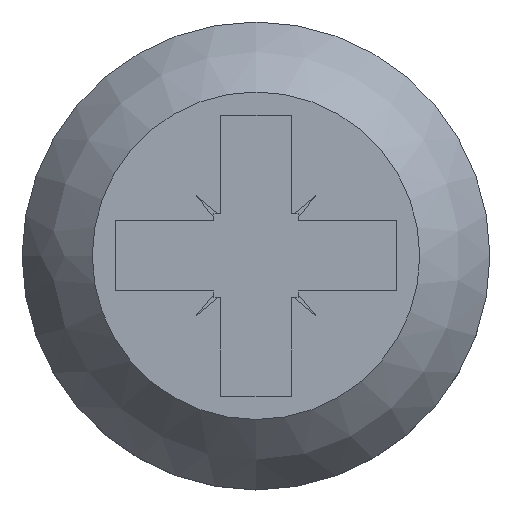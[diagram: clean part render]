
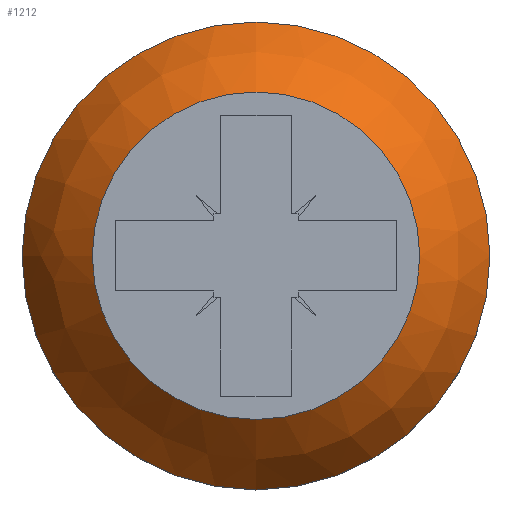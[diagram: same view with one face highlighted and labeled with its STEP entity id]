
A CAD part, top view. The second image highlights one B-rep face of the part: STEP entity #1212.
In plain terms, the highlighted spherical face has radius 3.865 mm.
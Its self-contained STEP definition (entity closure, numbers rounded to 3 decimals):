
#16=SPHERICAL_SURFACE('',#1293,3.865);
#116=FACE_OUTER_BOUND('',#178,.T.);
#178=EDGE_LOOP('',(#1114,#1115,#1116,#1117,#1118));
#189=CIRCLE('',#1292,2.45);
#190=CIRCLE('',#1294,3.865);
#191=CIRCLE('',#1295,3.5);
#192=CIRCLE('',#1296,3.5);
#594=VERTEX_POINT('',#11692);
#595=VERTEX_POINT('',#11695);
#596=VERTEX_POINT('',#11697);
#770=EDGE_CURVE('',#594,#594,#189,.T.);
#771=EDGE_CURVE('',#594,#595,#190,.T.);
#772=EDGE_CURVE('',#596,#595,#191,.T.);
#773=EDGE_CURVE('',#595,#596,#192,.T.);
#1114=ORIENTED_EDGE('',*,*,#770,.T.);
#1115=ORIENTED_EDGE('',*,*,#771,.T.);
#1116=ORIENTED_EDGE('',*,*,#772,.F.);
#1117=ORIENTED_EDGE('',*,*,#773,.F.);
#1118=ORIENTED_EDGE('',*,*,#771,.F.);
#1212=ADVANCED_FACE('',(#116),#16,.T.);
#1292=AXIS2_PLACEMENT_3D('',#11693,#1541,#1542);
#1293=AXIS2_PLACEMENT_3D('',#11694,#1543,#1544);
#1294=AXIS2_PLACEMENT_3D('',#11696,#1545,#1546);
#1295=AXIS2_PLACEMENT_3D('',#11698,#1547,#1548);
#1296=AXIS2_PLACEMENT_3D('',#11699,#1549,#1550);
#1541=DIRECTION('center_axis',(0.,0.,-1.));
#1542=DIRECTION('ref_axis',(1.,0.,0.));
#1543=DIRECTION('center_axis',(0.,0.,1.));
#1544=DIRECTION('ref_axis',(1.,0.,0.));
#1545=DIRECTION('center_axis',(0.,-1.,0.));
#1546=DIRECTION('ref_axis',(-1.,0.,0.));
#1547=DIRECTION('center_axis',(0.,0.,-1.));
#1548=DIRECTION('ref_axis',(1.,0.,0.));
#1549=DIRECTION('center_axis',(0.,0.,-1.));
#1550=DIRECTION('ref_axis',(1.,0.,0.));
#11692=CARTESIAN_POINT('',(-2.45,0.,15.2));
#11693=CARTESIAN_POINT('Origin',(0.,0.,15.2));
#11694=CARTESIAN_POINT('Origin',(0.,0.,12.211));
#11695=CARTESIAN_POINT('',(-3.5,0.,13.85));
#11696=CARTESIAN_POINT('Origin',(0.,0.,12.211));
#11697=CARTESIAN_POINT('',(0.,-3.5,13.85));
#11698=CARTESIAN_POINT('Origin',(0.,0.,13.85));
#11699=CARTESIAN_POINT('Origin',(0.,0.,13.85));
